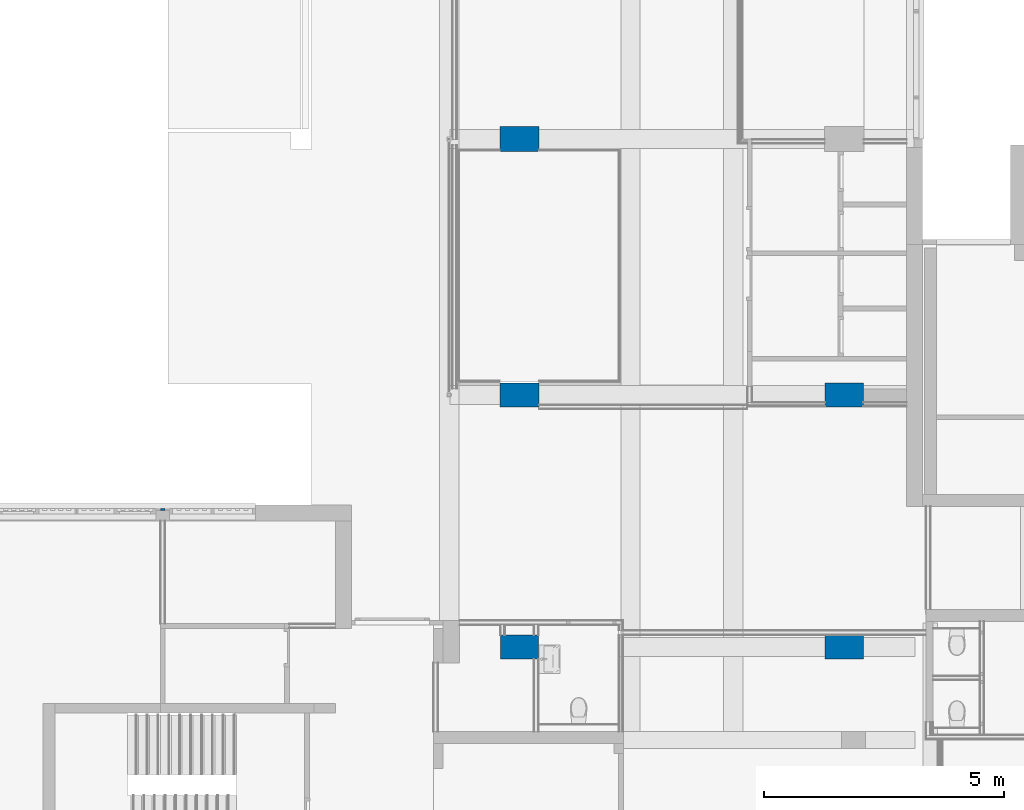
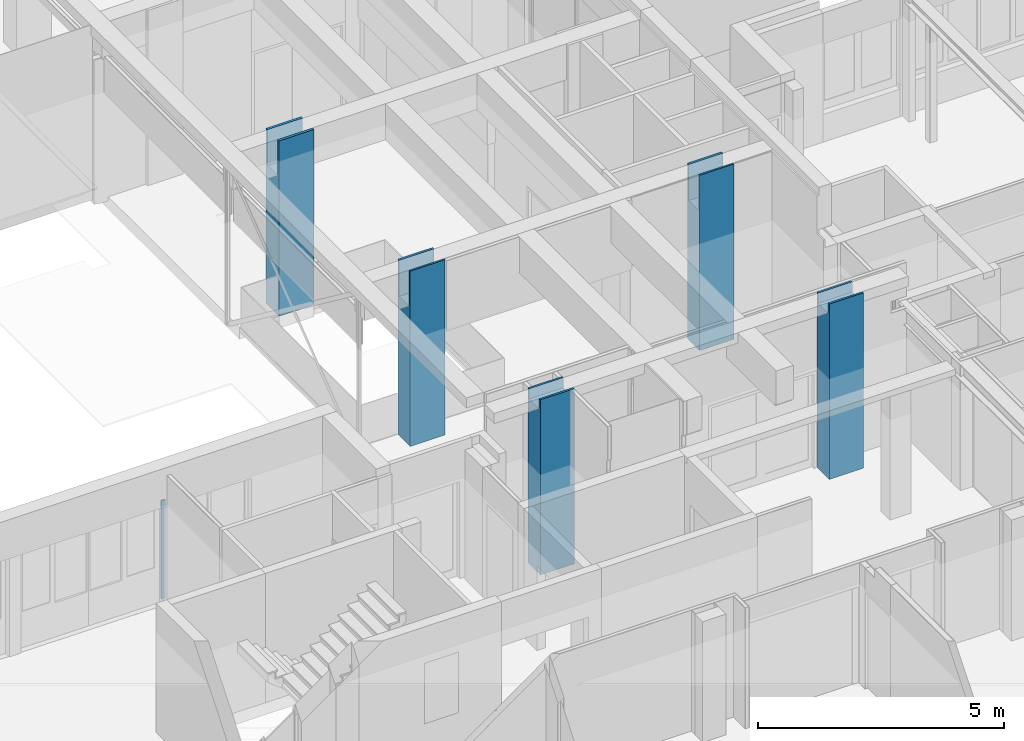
# One storey, part 16 of 117: 6 columns.
"""IFC2X3 building model written with IfcOpenShell, lengths in millimetres."""

from ifc_helpers import new_model, entity, si_unit, converted_unit, derived_unit, money_unit, direction, frame, origin_with_axes, place, context, subcontext, project, spatial, faceted_brep, material, type_object, element, save


model = new_model("IFC2X3")

# Units and contexts
model_context = context("Model", 3, precision=0.01, world=origin_with_axes(), true_north=direction((0.0, 1.0)))
body_context = subcontext(model_context, "Body", "Model", "MODEL_VIEW")
ifc_project = project(units=[si_unit("LENGTHUNIT", "METRE", prefix="MILLI"), si_unit("AREAUNIT", "SQUARE_METRE"), si_unit("VOLUMEUNIT", "CUBIC_METRE"), converted_unit("PLANEANGLEUNIT", "DEGREE", entity("IfcPlaneAngleMeasure", 0.0174532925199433), si_unit("PLANEANGLEUNIT", "RADIAN"), dimensions=[0, 0, 0, 0, 0, 0, 0]), money_unit("EUR"), converted_unit("TIMEUNIT", "Year", entity("IfcTimeMeasure", 31557600.0), si_unit("TIMEUNIT", "SECOND"), dimensions=[0, 0, 1, 0, 0, 0, 0]), si_unit("MASSUNIT", "GRAM", prefix="KILO"), si_unit("THERMODYNAMICTEMPERATUREUNIT", "DEGREE_CELSIUS"), si_unit("LUMINOUSINTENSITYUNIT", "LUMEN"), si_unit("ENERGYUNIT", "JOULE", prefix="MEGA"), derived_unit("THERMALCONDUCTANCEUNIT", [(si_unit("POWERUNIT", "WATT"), 1), (si_unit("LENGTHUNIT", "METRE"), -1), (si_unit("THERMODYNAMICTEMPERATUREUNIT", "KELVIN"), -1)]), derived_unit("SPECIFICHEATCAPACITYUNIT", [(si_unit("ENERGYUNIT", "JOULE"), 1), (si_unit("MASSUNIT", "GRAM", prefix="KILO"), -1), (si_unit("THERMODYNAMICTEMPERATUREUNIT", "KELVIN"), -1)]), derived_unit("MASSDENSITYUNIT", [(si_unit("MASSUNIT", "GRAM", prefix="KILO"), 1), (si_unit("VOLUMEUNIT", "CUBIC_METRE"), -1)])], contexts=[model_context])

# Site, building, storey
site_placement = place(None, origin_with_axes())
site = spatial("IfcSite", under=ifc_project, at=site_placement, Name="Site", CompositionType="ELEMENT")
building_placement = place(site_placement, origin_with_axes())
building = spatial("IfcBuilding", under=site, at=building_placement, Name="Naam gebouw", CompositionType="ELEMENT")
storey_placement = place(building_placement, frame((0.0, 0.0, 4150.0), z_axis=(0.0, 0.0, 1.0), x_axis=(1.0, 0.0, 0.0)))
storey = spatial("IfcBuildingStorey", under=building, at=storey_placement, Name="1e verdieping N", CompositionType="ELEMENT", Elevation=4150.0)

# Columns
ifc_material_1 = material(Name="Metaal - Staal C")
column_type_1 = type_object("IfcColumnType", Name="Metaal - Staal C 90 x 44", PredefinedType="COLUMN")
column_1_placement = place(storey_placement, frame((14400.0, 20233.89452790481, 0.0), z_axis=(0.0, 0.0, 1.0), x_axis=(-1.0, 0.0, 0.0)))
element("IfcColumn", 1, at=column_1_placement, inside=storey, type_object=column_type_1, material=ifc_material_1, Name="_Kolom-x", ObjectType="COLUMN", context=body_context, shape_type="Brep", body=[
    faceted_brep([(-44.99999999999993, -15.00989562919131, 28.51433297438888), (-44.99999999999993, -17.0098956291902, 28.51433297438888), (-44.99999999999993, -17.0098956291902, 18.51433297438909), (-44.99999999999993, -21.99999999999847, 17.63444293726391), (-44.99999999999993, -21.99999999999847, 2440.000000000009), (-44.99999999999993, 21.99999999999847, 2440.000000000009), (-44.99999999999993, 21.99999999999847, 0.0), (-44.99999999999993, -21.99999999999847, 0.0), (-44.99999999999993, -21.99999999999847, 15.60358971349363), (-44.99999999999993, -15.00989562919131, 16.83613371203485), (44.99999999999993, -17.00988610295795, 28.51433297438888), (44.99999999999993, -15.00988610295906, 28.51433297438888), (44.99999999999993, -17.00988610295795, 18.51433297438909), (44.99999999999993, -21.99999999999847, 17.63444125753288), (44.99999999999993, -21.99999999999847, 2440.000000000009), (44.99999999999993, 21.99999999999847, 2440.000000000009), (44.99999999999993, 21.99999999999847, 0.0), (44.99999999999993, -21.99999999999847, 0.0), (44.99999999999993, -21.99999999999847, 15.60358803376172), (44.99999999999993, -15.00988610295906, 16.83613371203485)], [[[0, 1, 2, 3, 4, 5, 6, 7, 8, 9]], [[10, 1, 0, 11]], [[12, 2, 1, 10]], [[12, 13, 3, 2]], [[4, 3, 13, 14]], [[15, 5, 4, 14]], [[5, 15, 16, 6]], [[16, 17, 7, 6]], [[17, 18, 8, 7]], [[19, 9, 8, 18]], [[11, 0, 9, 19]], [[11, 19, 18, 17, 16, 15, 14, 13, 12, 10]]]),
])
ifc_material_2 = material(Name="ALG - CONSTRUCTIEF")
column_type_2 = type_object("IfcColumnType", Name="ALG - CONSTRUCTIEF 525 x 820", PredefinedType="COLUMN")
column_2_placement = place(storey_placement, frame((21836.0, 27955.91242510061, 0.0), z_axis=(0.0, 0.0, 1.0), x_axis=(0.0, -1.0, 0.0)))
element("IfcColumn", 2, at=column_2_placement, inside=storey, type_object=column_type_2, material=ifc_material_2, Name="_Kolom-x", ObjectType="COLUMN", context=body_context, shape_type="Brep", body=[
    faceted_brep([(-262.4999999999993, -410.0000000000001, 4340.0), (-199.9999999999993, -410.0000000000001, 4340.0), (-199.9999999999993, 410.0000000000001, 4340.0), (-262.4999999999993, 410.0000000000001, 4340.0), (199.9999999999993, -410.0000000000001, 3449.999999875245), (-199.9999999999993, -410.0000000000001, 3449.999999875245), (-262.4999999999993, -410.0000000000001, 0.0), (262.4999999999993, -410.0000000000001, 0.0), (262.4999999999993, -410.0000000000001, 4340.0), (199.9999999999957, -410.0000000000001, 4340.0), (-199.9999999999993, 410.0000000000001, 3449.999999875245), (199.9999999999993, 410.0000000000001, 3449.999999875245), (199.9999999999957, 410.0000000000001, 4340.0), (262.4999999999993, 410.0000000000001, 4340.0), (262.4999999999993, 410.0000000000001, 0.0), (-262.4999999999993, 410.0000000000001, 0.0)], [[[0, 1, 2, 3]], [[4, 5, 1, 0, 6, 7, 8, 9]], [[5, 10, 2, 1]], [[10, 11, 12, 13, 14, 15, 3, 2]], [[6, 0, 3, 15]], [[4, 11, 10, 5]], [[15, 14, 7, 6]], [[14, 13, 8, 7]], [[13, 12, 9, 8]], [[4, 9, 12, 11]]]),
])
column_type_3 = type_object("IfcColumnType", Name="ALG - CONSTRUCTIEF 500 x 800", PredefinedType="COLUMN")
column_3_placement = place(storey_placement, frame((21836.0, 17365.91242510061, -99.99999999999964), z_axis=(0.0, 0.0, 1.0), x_axis=(0.0, -1.0, 0.0)))
element("IfcColumn", 3, at=column_3_placement, inside=storey, type_object=column_type_3, material=ifc_material_2, Name="_Kolom-x", ObjectType="COLUMN", context=body_context, shape_type="Brep", body=[
    faceted_brep([(-250.0, -399.9999999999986, 4439.999999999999), (-199.9999999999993, -399.9999999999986, 4439.999999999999), (-199.9999999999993, 399.9999999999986, 4439.999999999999), (-250.0, 399.9999999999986, 4439.999999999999), (199.9999999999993, -399.9999999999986, 4189.999999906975), (-199.9999999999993, -399.9999999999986, 4189.999999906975), (-250.0, -399.9999999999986, 99.99999999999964), (250.0, -399.9999999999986, 99.99999999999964), (250.0, -399.9999999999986, 4439.999999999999), (199.9999999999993, -399.9999999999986, 4439.999999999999), (-199.9999999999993, 399.9999999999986, 4189.999999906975), (199.9999999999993, 399.9999999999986, 4189.999999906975), (199.9999999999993, 399.9999999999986, 4439.999999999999), (250.0, 399.9999999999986, 4439.999999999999), (250.0, 399.9999999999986, 99.99999999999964), (-250.0, 399.9999999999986, 99.99999999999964)], [[[0, 1, 2, 3]], [[4, 5, 1, 0, 6, 7, 8, 9]], [[5, 10, 2, 1]], [[10, 11, 12, 13, 14, 15, 3, 2]], [[0, 3, 15, 6]], [[4, 11, 10, 5]], [[14, 7, 6, 15]], [[13, 8, 7, 14]], [[13, 12, 9, 8]], [[4, 9, 12, 11]]]),
])
column_4_placement = place(storey_placement, frame((28605.99999999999, 22625.91242510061, -200.0000000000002), z_axis=(0.0, 0.0, 1.0), x_axis=(0.0, -1.0, 0.0)))
element("IfcColumn", 4, at=column_4_placement, inside=storey, type_object=column_type_3, material=ifc_material_2, Name="_Kolom-x", ObjectType="COLUMN", context=body_context, shape_type="Brep", body=[
    faceted_brep([(-250.0, -399.9999999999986, 4540.0), (-194.1853832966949, -399.9999999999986, 4540.0), (-194.1853832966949, 399.9999999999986, 4540.0), (-250.0, 399.9999999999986, 4540.0), (205.8146167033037, -399.9999999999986, 3649.999999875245), (-194.1853832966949, -399.9999999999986, 3649.999999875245), (-250.0, -399.9999999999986, 200.0000000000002), (250.0, -399.9999999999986, 200.0000000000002), (250.0, -399.9999999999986, 4540.0), (205.8146167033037, -399.9999999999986, 4540.0), (-194.1853832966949, 399.9999999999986, 3649.999999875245), (205.8146167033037, 399.9999999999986, 3649.999999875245), (205.8146167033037, 399.9999999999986, 4540.0), (250.0, 399.9999999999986, 4540.0), (250.0, 399.9999999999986, 200.0000000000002), (-250.0, 399.9999999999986, 200.0000000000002)], [[[0, 1, 2, 3]], [[4, 5, 1, 0, 6, 7, 8, 9]], [[5, 10, 2, 1]], [[10, 11, 12, 13, 14, 15, 3, 2]], [[0, 3, 15, 6]], [[4, 11, 10, 5]], [[14, 7, 6, 15]], [[13, 8, 7, 14]], [[13, 12, 9, 8]], [[4, 9, 12, 11]]]),
])
column_5_placement = place(storey_placement, frame((28605.99999999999, 17365.91242510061, -99.99999999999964), z_axis=(0.0, 0.0, 1.0), x_axis=(0.0, -1.0, 0.0)))
element("IfcColumn", 5, at=column_5_placement, inside=storey, type_object=column_type_3, material=ifc_material_2, Name="_Kolom-x", ObjectType="COLUMN", context=body_context, shape_type="Brep", body=[
    faceted_brep([(-250.0, -399.9999999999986, 4439.999999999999), (-199.9999999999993, -399.9999999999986, 4439.999999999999), (-199.9999999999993, 399.9999999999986, 4439.999999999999), (-250.0, 399.9999999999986, 4439.999999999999), (199.9999999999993, -399.9999999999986, 4189.999999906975), (-199.9999999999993, -399.9999999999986, 4189.999999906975), (-250.0, -399.9999999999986, 99.99999999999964), (250.0, -399.9999999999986, 99.99999999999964), (250.0, -399.9999999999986, 4439.999999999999), (199.9999999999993, -399.9999999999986, 4439.999999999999), (-199.9999999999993, 399.9999999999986, 4189.999999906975), (199.9999999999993, 399.9999999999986, 4189.999999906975), (199.9999999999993, 399.9999999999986, 4439.999999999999), (250.0, 399.9999999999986, 4439.999999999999), (250.0, 399.9999999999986, 99.99999999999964), (-250.0, 399.9999999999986, 99.99999999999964)], [[[0, 1, 2, 3]], [[4, 5, 1, 0, 6, 7, 8, 9]], [[5, 10, 2, 1]], [[10, 11, 12, 13, 14, 15, 3, 2]], [[0, 3, 15, 6]], [[4, 11, 10, 5]], [[14, 7, 6, 15]], [[13, 8, 7, 14]], [[13, 12, 9, 8]], [[4, 9, 12, 11]]]),
])
column_type_4 = type_object("IfcColumnType", Name="ALG - CONSTRUCTIEF 500 x 820", PredefinedType="COLUMN")
column_6_placement = place(storey_placement, frame((21836.0, 22625.91242510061, 0.0), z_axis=(0.0, 0.0, 1.0), x_axis=(0.0, -1.0, 0.0)))
element("IfcColumn", 6, at=column_6_placement, inside=storey, type_object=column_type_4, material=ifc_material_2, Name="_Kolom-x", ObjectType="COLUMN", context=body_context, shape_type="Brep", body=[
    faceted_brep([(-250.0, -410.0000000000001, 4340.0), (-194.1853832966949, -410.0000000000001, 4340.0), (-194.1853832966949, 410.0000000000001, 4340.0), (-250.0, 410.0000000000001, 4340.0), (205.8146167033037, -410.0000000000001, 3449.999999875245), (-194.1853832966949, -410.0000000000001, 3449.999999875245), (-250.0, -410.0000000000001, 0.0), (250.0, -410.0000000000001, 0.0), (250.0, -410.0000000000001, 4340.0), (205.8146167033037, -410.0000000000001, 4340.0), (-194.1853832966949, 410.0000000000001, 3449.999999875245), (205.8146167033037, 410.0000000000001, 3449.999999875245), (205.8146167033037, 410.0000000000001, 4340.0), (250.0, 410.0000000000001, 4340.0), (250.0, 410.0000000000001, 0.0), (-250.0, 410.0000000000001, 0.0)], [[[0, 1, 2, 3]], [[4, 5, 1, 0, 6, 7, 8, 9]], [[5, 10, 2, 1]], [[10, 11, 12, 13, 14, 15, 3, 2]], [[6, 0, 3, 15]], [[4, 11, 10, 5]], [[15, 14, 7, 6]], [[14, 13, 8, 7]], [[13, 12, 9, 8]], [[4, 9, 12, 11]]]),
])

save(model, "model.ifc")
